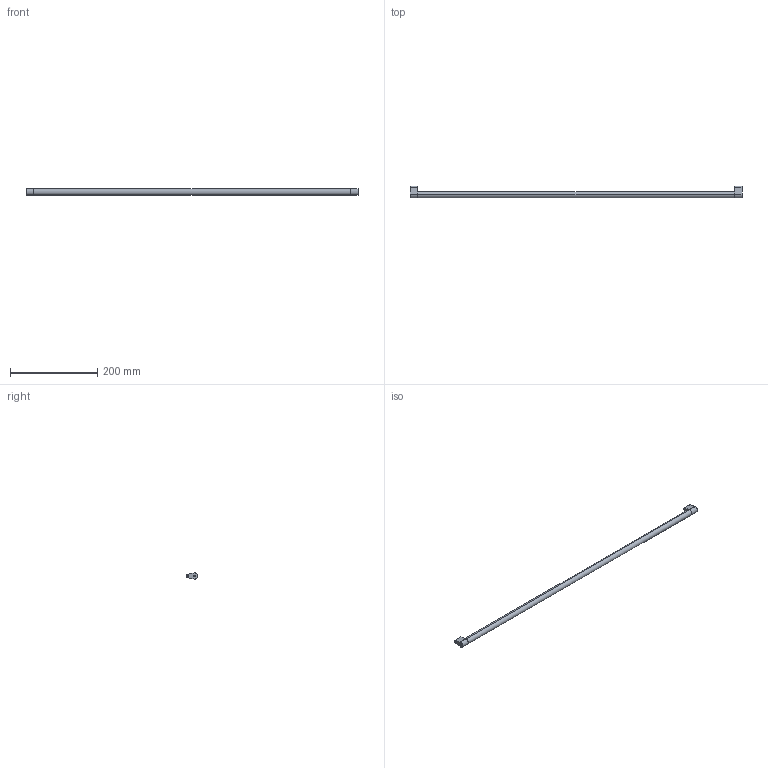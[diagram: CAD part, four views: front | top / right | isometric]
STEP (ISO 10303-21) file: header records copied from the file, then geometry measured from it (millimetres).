
FILE_DESCRIPTION (( 'STEP AP214' ), '1' );
FILE_NAME ('_Synchronisationseinheit Nova Pro KAB850_S19.step', '2010-07-08T13:58:47', ( 'grass' ), ( '' ), 'SwSTEP 2.0', 'SolidWorks 2010', '' );
FILE_SCHEMA (( 'AUTOMOTIVE_DESIGN' ));
Length unit declared in the file: millimetre
Products named in the file (1): _Synchronisationseinheit Nova Pro KAB850_S19
Bounding box: 759 x 26.5 x 14 mm (x, y, z)
Volume: 120525.8 mm3; surface area: 36229.5 mm2
Topology: 3 solids, 3 shells, 36 faces, 78 edges, 52 vertices
Faces by surface type: cylinder 18, plane 18
Entity records: 1050 total; most frequent: DIRECTION 188, CARTESIAN_POINT 167, ORIENTED_EDGE 156, EDGE_CURVE 78, AXIS2_PLACEMENT_3D 73, VERTEX_POINT 52, VECTOR 42, LINE 42
